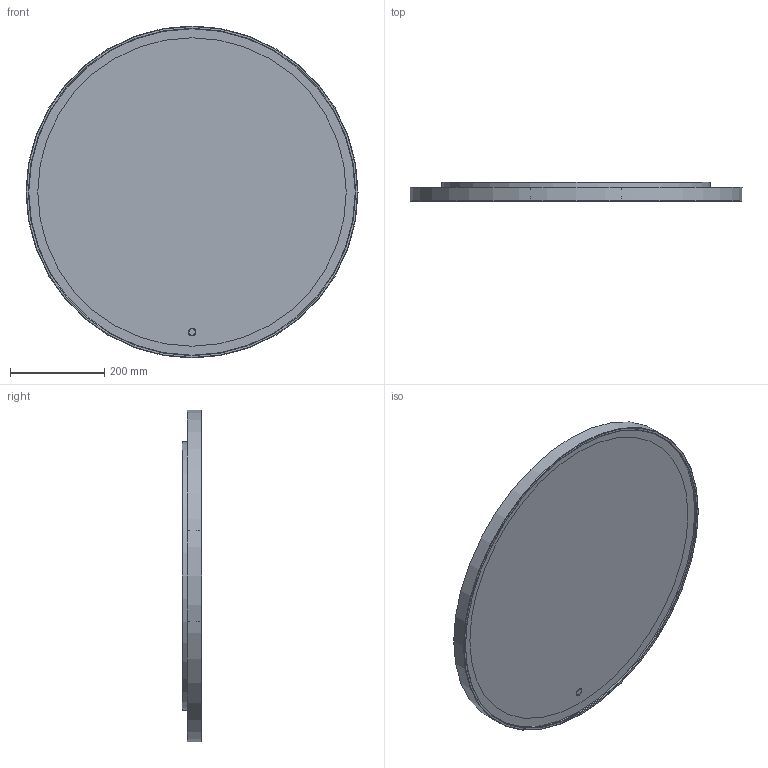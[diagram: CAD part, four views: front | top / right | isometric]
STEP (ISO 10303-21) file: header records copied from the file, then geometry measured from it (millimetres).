
FILE_DESCRIPTION(/* description */ ('Unknown'),/* implementation_level */ '2;1');
FILE_NAME(/* name */ 'Soft DUAL',/* time_stamp */ '2026-04-08T14:27:05+02:00',/* author */ ('Mariusz Kirko'),/* organization */ ('Kraft'),/* preprocessor_version */ 'ST-DEVELOPER v19.4',/* originating_system */ 'Solid Edge',/* authorisation */ 'Unknown');
FILE_SCHEMA (('AUTOMOTIVE_DESIGN {1 0 10303 214 3 1 1}'));
Length unit declared in the file: millimetre
Products named in the file (7): Z這瞠nie plus zawieszka; Ramka; Piaskowanie; Lustro; Ramka AMB; Zakrywka; 350x30
Assembly tree (6 placements, depth 2):
  Z這瞠nie plus zawieszka
    Ramka
    Piaskowanie
    Lustro
    Ramka AMB
    Zakrywka
    350x30
Bounding box: 706 x 40.5 x 706 mm (x, y, z)
Volume: 2169026.8 mm3; surface area: 1401452.2 mm2
Topology: 7 solids, 7 shells, 101 faces, 260 edges, 174 vertices
Faces by surface type: plane 55, cylinder 44, torus 2
Full cylindrical faces by diameter (mm): 14 x1, 16 x1, 566 x1, 570 x2, 656 x2, 694 x1, 700 x3, 706 x1
Entity records: 3262 total; most frequent: DIRECTION 548, CARTESIAN_POINT 520, ORIENTED_EDGE 484, EDGE_CURVE 242, AXIS2_PLACEMENT_3D 198, VERTEX_POINT 170, EDGE_LOOP 158, FACE_BOUND 158
